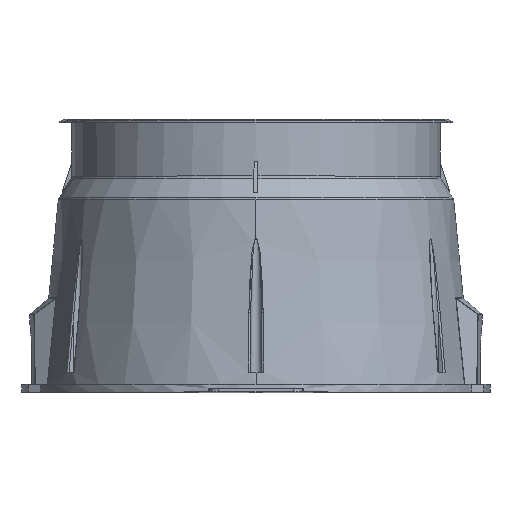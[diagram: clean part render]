
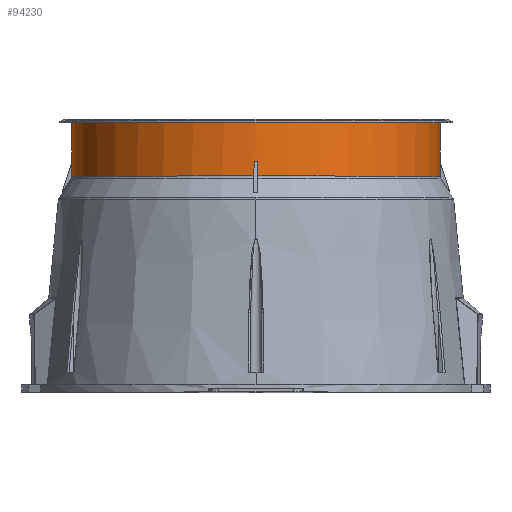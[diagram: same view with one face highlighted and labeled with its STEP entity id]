
A CAD part, top view. The second image highlights one B-rep face of the part: STEP entity #94230.
In plain terms, the highlighted cylindrical face has radius 117.5 mm (diameter 235 mm), a partial arc.
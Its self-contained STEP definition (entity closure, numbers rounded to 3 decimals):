
#83413=DIRECTION('',(0.,-1.,0.));
#83414=VECTOR('',#83413,25.176);
#83415=CARTESIAN_POINT('',(-117.5,33.5,0.));
#83416=LINE('',#83415,#83414);
#83493=CARTESIAN_POINT('',(0.,8.324,0.));
#83494=DIRECTION('',(0.,1.,0.));
#83495=DIRECTION('',(1.,0.,0.011));
#83496=AXIS2_PLACEMENT_3D('',#83493,#83494,#83495);
#83515=CARTESIAN_POINT('',(0.,-0.709,0.));
#83516=DIRECTION('',(0.,1.,0.));
#83517=DIRECTION('',(0.011,0.,1.));
#83518=AXIS2_PLACEMENT_3D('',#83515,#83516,#83517);
#83525=DIRECTION('',(0.,1.,0.));
#83526=VECTOR('',#83525,9.033);
#83527=CARTESIAN_POINT('',(-117.493,-0.709,1.25));
#83528=LINE('',#83527,#83526);
#83529=DIRECTION('',(0.,-1.,0.));
#83530=VECTOR('',#83529,25.176);
#83531=CARTESIAN_POINT('',(117.5,33.5,0.));
#83532=LINE('',#83531,#83530);
#83533=DIRECTION('',(0.,-1.,0.));
#83534=VECTOR('',#83533,9.033);
#83535=CARTESIAN_POINT('',(117.493,8.324,1.261));
#83536=LINE('',#83535,#83534);
#83537=DIRECTION('',(0.,1.,0.));
#83538=VECTOR('',#83537,9.033);
#83539=CARTESIAN_POINT('',(1.25,-0.709,117.493));
#83540=LINE('',#83539,#83538);
#83541=DIRECTION('',(0.,-1.,0.));
#83542=VECTOR('',#83541,9.033);
#83543=CARTESIAN_POINT('',(-1.261,8.324,
117.493));
#83544=LINE('',#83543,#83542);
#83545=CARTESIAN_POINT('',(0.,-0.709,0.));
#83546=DIRECTION('',(0.,1.,0.));
#83547=DIRECTION('',(-1.,0.,0.011));
#83548=AXIS2_PLACEMENT_3D('',#83545,#83546,#83547);
#83568=CARTESIAN_POINT('',(0.,8.324,0.));
#83569=DIRECTION('',(0.,1.,0.));
#83570=DIRECTION('',(-0.011,0.,1.));
#83571=AXIS2_PLACEMENT_3D('',#83568,#83569,#83570);
#83622=CARTESIAN_POINT('',(0.,8.324,0.));
#83623=DIRECTION('',(0.,1.,0.));
#83624=DIRECTION('',(-1.,0.,0.));
#83625=AXIS2_PLACEMENT_3D('',#83622,#83623,#83624);
#83645=CARTESIAN_POINT('',(0.,33.5,0.));
#83646=DIRECTION('',(0.,-1.,0.));
#83647=DIRECTION('',(1.,0.,0.));
#83648=AXIS2_PLACEMENT_3D('',#83645,#83646,#83647);
#91772=CARTESIAN_POINT('',(117.5,8.324,0.));
#91773=VERTEX_POINT('',#91772);
#91774=CARTESIAN_POINT('',(117.5,33.5,0.));
#91775=VERTEX_POINT('',#91774);
#91776=CARTESIAN_POINT('',(-117.5,33.5,0.));
#91777=VERTEX_POINT('',#91776);
#91778=CARTESIAN_POINT('',(-117.5,8.324,0.));
#91779=VERTEX_POINT('',#91778);
#91782=CARTESIAN_POINT('',(-117.493,8.324,1.25));
#91783=VERTEX_POINT('',#91782);
#91784=CARTESIAN_POINT('',(117.493,8.324,1.261));
#91785=VERTEX_POINT('',#91784);
#91786=CARTESIAN_POINT('',(-1.261,8.324,
117.493));
#91787=CARTESIAN_POINT('',(1.25,8.324,117.493));
#91788=VERTEX_POINT('',#91786);
#91789=VERTEX_POINT('',#91787);
#91790=CARTESIAN_POINT('',(117.493,-0.709,
1.261));
#91791=VERTEX_POINT('',#91790);
#91792=CARTESIAN_POINT('',(1.25,-0.709,117.493));
#91793=VERTEX_POINT('',#91792);
#91794=CARTESIAN_POINT('',(-117.493,-0.709,1.25));
#91795=CARTESIAN_POINT('',(-1.261,-0.709,
117.493));
#91796=VERTEX_POINT('',#91794);
#91797=VERTEX_POINT('',#91795);
#94204=CARTESIAN_POINT('',(0.,0.,0.));
#94205=DIRECTION('',(0.,1.,0.));
#94206=DIRECTION('',(1.,0.,0.));
#94207=AXIS2_PLACEMENT_3D('',#94204,#94205,#94206);
#94208=CYLINDRICAL_SURFACE('',#94207,117.5);
#94210=ORIENTED_EDGE('',*,*,#94209,.F.);
#94212=ORIENTED_EDGE('',*,*,#94211,.T.);
#94214=ORIENTED_EDGE('',*,*,#94213,.F.);
#94215=ORIENTED_EDGE('',*,*,#94073,.F.);
#94217=ORIENTED_EDGE('',*,*,#94216,.F.);
#94218=ORIENTED_EDGE('',*,*,#94069,.T.);
#94219=ORIENTED_EDGE('',*,*,#94159,.F.);
#94220=ORIENTED_EDGE('',*,*,#94183,.T.);
#94221=ORIENTED_EDGE('',*,*,#94195,.F.);
#94223=ORIENTED_EDGE('',*,*,#94222,.T.);
#94225=ORIENTED_EDGE('',*,*,#94224,.F.);
#94227=ORIENTED_EDGE('',*,*,#94226,.T.);
#94228=EDGE_LOOP('',(#94210,#94212,#94214,#94215,#94217,#94218,#94219,#94220,
#94221,#94223,#94225,#94227));
#94229=FACE_OUTER_BOUND('',#94228,.F.);
#94230=ADVANCED_FACE('',(#94229),#94208,.T.);
#83497=CIRCLE('',#83496,117.5);
#83519=CIRCLE('',#83518,117.5);
#83549=CIRCLE('',#83548,117.5);
#83572=CIRCLE('',#83571,117.5);
#83626=CIRCLE('',#83625,117.5);
#83649=CIRCLE('',#83648,117.5);
#94069=EDGE_CURVE('',#91775,#91773,#83532,.T.);
#94073=EDGE_CURVE('',#91777,#91779,#83416,.T.);
#94159=EDGE_CURVE('',#91785,#91773,#83497,.T.);
#94183=EDGE_CURVE('',#91785,#91791,#83536,.T.);
#94195=EDGE_CURVE('',#91793,#91791,#83519,.T.);
#94209=EDGE_CURVE('',#91796,#91797,#83549,.T.);
#94211=EDGE_CURVE('',#91796,#91783,#83528,.T.);
#94213=EDGE_CURVE('',#91779,#91783,#83626,.T.);
#94216=EDGE_CURVE('',#91775,#91777,#83649,.T.);
#94222=EDGE_CURVE('',#91793,#91789,#83540,.T.);
#94224=EDGE_CURVE('',#91788,#91789,#83572,.T.);
#94226=EDGE_CURVE('',#91788,#91797,#83544,.T.);
